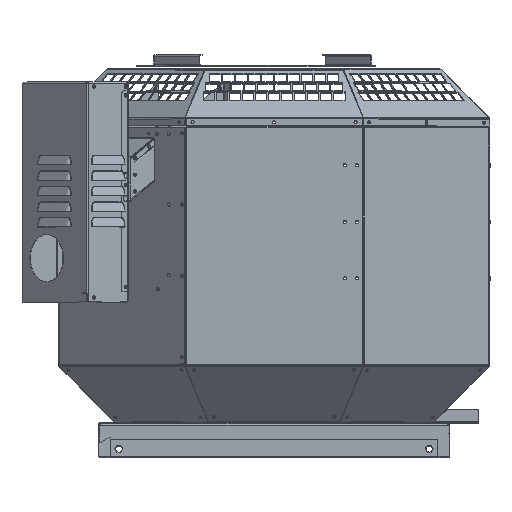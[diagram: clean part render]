
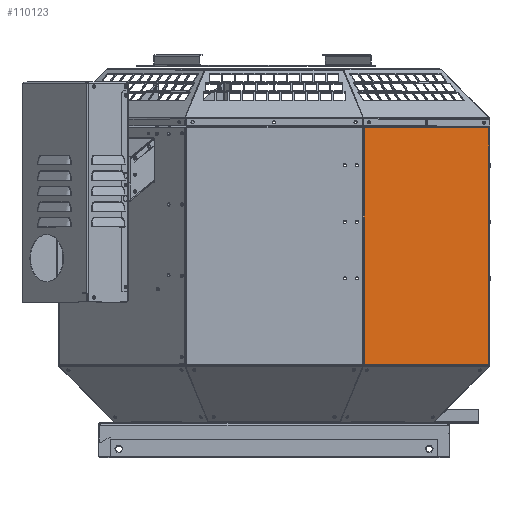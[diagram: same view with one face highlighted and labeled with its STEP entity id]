
A CAD part, top view. The second image highlights one B-rep face of the part: STEP entity #110123.
In plain terms, the highlighted planar face has unit normal (0.707, 0, 0.707).
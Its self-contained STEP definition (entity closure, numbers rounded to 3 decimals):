
#3701 = DIRECTION ( 'NONE',  ( 0., 1., 0. ) ) ;
#3858 = LINE ( 'NONE', #103537, #70335 ) ;
#5479 = CARTESIAN_POINT ( 'NONE',  ( 283.245, 410.409, 119.099 ) ) ;
#5818 = CARTESIAN_POINT ( 'NONE',  ( 118.781, 408.402, 283.563 ) ) ;
#10416 = LINE ( 'NONE', #46853, #97328 ) ;
#11112 = EDGE_CURVE ( 'NONE', #78167, #104840, #10416, .T. ) ;
#11664 = EDGE_CURVE ( 'NONE', #87296, #45562, #25199, .T. ) ;
#12612 = CARTESIAN_POINT ( 'NONE',  ( 283.245, 408.402, 119.099 ) ) ;
#13825 = CARTESIAN_POINT ( 'NONE',  ( 118.781, 422.402, 283.563 ) ) ;
#17011 = VECTOR ( 'NONE', #55518, 1000. ) ;
#18847 = DIRECTION ( 'NONE',  ( -0.707, 0., 0.707 ) ) ;
#20595 = CARTESIAN_POINT ( 'NONE',  ( 284.207, 422.402, 118.137 ) ) ;
#20976 = DIRECTION ( 'NONE',  ( 0.707, 0., -0.707 ) ) ;
#25199 = LINE ( 'NONE', #106799, #45496 ) ;
#26434 = EDGE_CURVE ( 'NONE', #32676, #87296, #66385, .T. ) ;
#28149 = CARTESIAN_POINT ( 'NONE',  ( 283.563, 408.402, 118.781 ) ) ;
#29042 = VERTEX_POINT ( 'NONE', #28149 ) ;
#29103 = LINE ( 'NONE', #33825, #95649 ) ;
#29726 = ORIENTED_EDGE ( 'NONE', *, *, #58938, .F. ) ;
#29845 = EDGE_CURVE ( 'NONE', #91649, #99064, #71158, .T. ) ;
#30971 = CARTESIAN_POINT ( 'NONE',  ( 119.099, 410.409, 283.245 ) ) ;
#32676 = VERTEX_POINT ( 'NONE', #30971 ) ;
#33825 = CARTESIAN_POINT ( 'NONE',  ( 284.207, 410.409, 118.137 ) ) ;
#35515 = DIRECTION ( 'NONE',  ( 0., -1., 0. ) ) ;
#35762 = ORIENTED_EDGE ( 'NONE', *, *, #44488, .F. ) ;
#40073 = LINE ( 'NONE', #81387, #17011 ) ;
#41231 = ORIENTED_EDGE ( 'NONE', *, *, #11664, .T. ) ;
#44483 = ORIENTED_EDGE ( 'NONE', *, *, #60252, .T. ) ;
#44488 = EDGE_CURVE ( 'NONE', #29042, #91649, #3858, .T. ) ;
#45496 = VECTOR ( 'NONE', #45974, 1000. ) ;
#45562 = VERTEX_POINT ( 'NONE', #5818 ) ;
#45974 = DIRECTION ( 'NONE',  ( -0.707, 0., 0.707 ) ) ;
#46670 = PLANE ( 'NONE',  #95055 ) ;
#46853 = CARTESIAN_POINT ( 'NONE',  ( 283.245, 422.402, 119.099 ) ) ;
#48042 = VECTOR ( 'NONE', #18847, 1000. ) ;
#50021 = EDGE_CURVE ( 'NONE', #29042, #78167, #40073, .T. ) ;
#51455 = VECTOR ( 'NONE', #35515, 1000. ) ;
#51477 = DIRECTION ( 'NONE',  ( 0., -1., 0. ) ) ;
#55518 = DIRECTION ( 'NONE',  ( -0.707, 0., 0.707 ) ) ;
#57024 = DIRECTION ( 'NONE',  ( 0., -1., 0. ) ) ;
#58938 = EDGE_CURVE ( 'NONE', #32676, #104840, #29103, .T. ) ;
#60252 = EDGE_CURVE ( 'NONE', #45562, #99064, #108925, .T. ) ;
#66385 = LINE ( 'NONE', #78821, #51455 ) ;
#70335 = VECTOR ( 'NONE', #51477, 1000. ) ;
#71158 = LINE ( 'NONE', #105409, #48042 ) ;
#72535 = ORIENTED_EDGE ( 'NONE', *, *, #26434, .T. ) ;
#72912 = DIRECTION ( 'NONE',  ( 0.707, 0., 0.707 ) ) ;
#78167 = VERTEX_POINT ( 'NONE', #12612 ) ;
#78821 = CARTESIAN_POINT ( 'NONE',  ( 119.099, 422.402, 283.245 ) ) ;
#81387 = CARTESIAN_POINT ( 'NONE',  ( 283.245, 408.402, 119.099 ) ) ;
#85021 = ORIENTED_EDGE ( 'NONE', *, *, #11112, .T. ) ;
#87296 = VERTEX_POINT ( 'NONE', #97594 ) ;
#88476 = FACE_OUTER_BOUND ( 'NONE', #104075, .T. ) ;
#89419 = ORIENTED_EDGE ( 'NONE', *, *, #50021, .T. ) ;
#90774 = CARTESIAN_POINT ( 'NONE',  ( 118.781, 97.802, 283.563 ) ) ;
#91649 = VERTEX_POINT ( 'NONE', #96046 ) ;
#95055 = AXIS2_PLACEMENT_3D ( 'NONE', #20595, #72912, #20976 ) ;
#95649 = VECTOR ( 'NONE', #103313, 1000. ) ;
#96046 = CARTESIAN_POINT ( 'NONE',  ( 283.563, 97.802, 118.781 ) ) ;
#97328 = VECTOR ( 'NONE', #3701, 1000. ) ;
#97594 = CARTESIAN_POINT ( 'NONE',  ( 119.099, 408.402, 283.245 ) ) ;
#99064 = VERTEX_POINT ( 'NONE', #90774 ) ;
#103313 = DIRECTION ( 'NONE',  ( 0.707, 0., -0.707 ) ) ;
#103537 = CARTESIAN_POINT ( 'NONE',  ( 283.563, 422.402, 118.781 ) ) ;
#104075 = EDGE_LOOP ( 'NONE', ( #29726, #72535, #41231, #44483, #106340, #35762, #89419, #85021 ) ) ;
#104840 = VERTEX_POINT ( 'NONE', #5479 ) ;
#105409 = CARTESIAN_POINT ( 'NONE',  ( 284.207, 97.802, 118.137 ) ) ;
#106223 = VECTOR ( 'NONE', #57024, 1000. ) ;
#106340 = ORIENTED_EDGE ( 'NONE', *, *, #29845, .F. ) ;
#106799 = CARTESIAN_POINT ( 'NONE',  ( 119.099, 408.402, 283.245 ) ) ;
#108925 = LINE ( 'NONE', #13825, #106223 ) ;
#110123 = ADVANCED_FACE ( 'NONE', ( #88476 ), #46670, .T. ) ;
